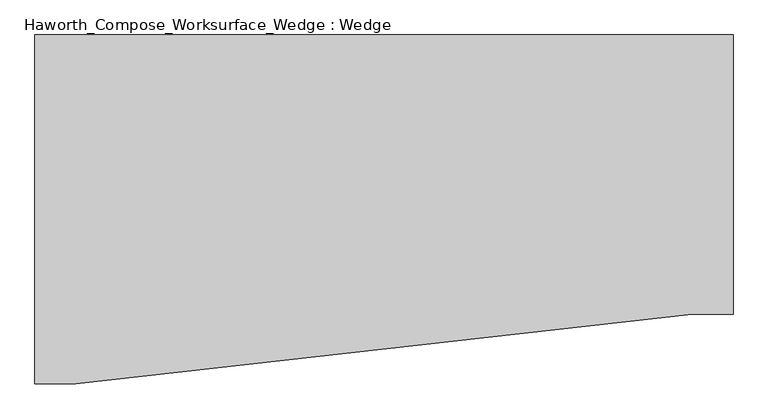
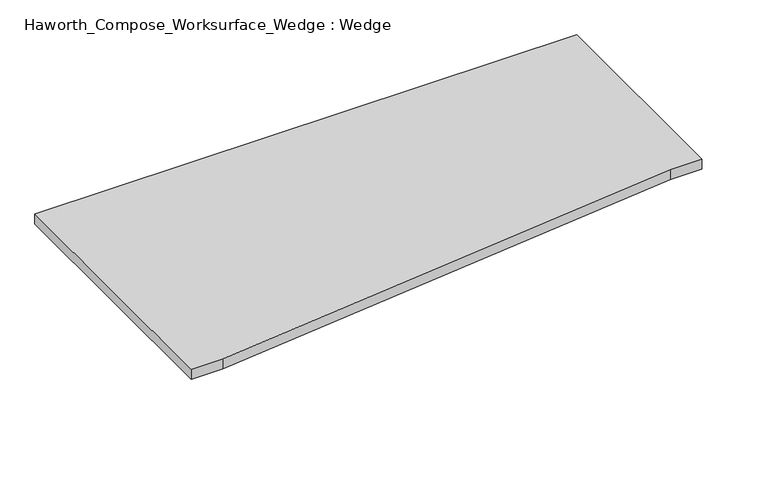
"""IFC4 building model written with IfcOpenShell, lengths in millimetres: furniture geometry, Haworth_Compose_Worksurface_Wedge : Wedge."""

from ifc_helpers import new_model, si_unit, frame, origin, place, context, project, spatial, polyline, circle_curve, outline, extrude, source, transform, mapped, element, save
from ifc_brep_helpers import plane_surface, revolved_surface, advanced_brep


def haworth_compose_worksurface_wedge_wedge_277dbe90(model_context):
    return source(origin(), model_context, "Body", "SolidModel", [
        advanced_brep(
        [(756.44375, 381.0, 475.45625), (756.44375, 365.125, 475.45625), (756.44375, -25.4, 691.7192568), (756.44375, -25.4, 704.05625), (756.44375, 365.125, 704.05625), (756.44375, 381.0, 704.05625), (756.44375, 297.690072, 665.95625), (756.44375, 254.0355284, 665.95625), (756.44375, 251.3564235, 656.3705539), (756.44375, 343.0776173, 605.5776439), (756.44375, 352.425, 611.1756969), (756.44375, 352.425, 634.6860246), (756.44375, 350.6730055, 637.5242776), (756.44375, 300.7663437, 665.1613425), (758.825, 381.0, 475.45625), (758.825, 381.0, 704.05625), (758.825, 365.125, 704.05625), (758.825, 365.125, 706.4375), (758.825, -25.4, 706.4375), (758.825, -25.4, 691.7192568), (758.825, 365.125, 475.45625), (758.825, 297.690072, 665.95625), (758.825, 300.7663437, 665.1613425), (758.825, 350.6730055, 637.5242776), (758.825, 352.425, 634.6860246), (758.825, 352.425, 611.1756969), (758.825, 343.0776173, 605.5776439), (758.825, 251.3564235, 656.3705539), (758.825, 254.0355284, 665.95625), (717.55, -25.4, 706.4375), (717.55, -25.4, 704.05625), (717.55, 365.125, 704.05625), (717.55, 365.125, 706.4375)],
        [
            (0, 1),
            (1, 2),
            (2, 3),
            (3, 4),
            (4, 5),
            (5, 0),
            (6, 7),
            (7, 8, circle_curve(frame((756.44375, 254.0355284, 660.7890106), z_axis=(1.0, 0.0, 0.0), x_axis=(0.0, -1.0, 0.0)), 5.1672394)),
            (8, 9),
            (9, 10, circle_curve(frame((756.44375, 346.075, 611.1756969), z_axis=(1.0, 0.0, 0.0), x_axis=(0.0, -1.0, 0.0)), 6.35)),
            (10, 11),
            (11, 12, circle_curve(frame((756.44375, 349.25, 634.6860246), z_axis=(1.0, 0.0, 0.0), x_axis=(0.0, -1.0, 0.0)), 3.175)),
            (12, 13),
            (13, 6, circle_curve(frame((756.44375, 297.690072, 659.60625), z_axis=(1.0, 0.0, 0.0), x_axis=(0.0, -1.0, 0.0)), 6.35)),
            (14, 15),
            (15, 16),
            (16, 17),
            (17, 18),
            (18, 19),
            (19, 20),
            (20, 14),
            (21, 22, circle_curve(frame((758.825, 297.690072, 659.60625), z_axis=(-1.0, 0.0, 0.0), x_axis=(0.0, -1.0, 0.0)), 6.35)),
            (22, 23),
            (23, 24, circle_curve(frame((758.825, 349.25, 634.6860246), z_axis=(-1.0, 0.0, 0.0), x_axis=(0.0, -1.0, 0.0)), 3.175)),
            (24, 25),
            (25, 26, circle_curve(frame((758.825, 346.075, 611.1756969), z_axis=(-1.0, 0.0, 0.0), x_axis=(0.0, -1.0, 0.0)), 6.35)),
            (26, 27),
            (27, 28, circle_curve(frame((758.825, 254.0355284, 660.7890106), z_axis=(-1.0, 0.0, 0.0), x_axis=(0.0, -1.0, 0.0)), 5.1672394)),
            (28, 21),
            (4, 16),
            (15, 5),
            (14, 0),
            (20, 1),
            (19, 2),
            (18, 29),
            (29, 30),
            (30, 3),
            (6, 21),
            (28, 7),
            (9, 26),
            (25, 10),
            (24, 11),
            (23, 12),
            (27, 8),
            (31, 4),
            (30, 31),
            (32, 29),
            (17, 32),
            (31, 32),
            (22, 13),
        ],
        [
            plane_surface(frame((756.44375, 381.0, 475.45625), z_axis=(-1.0, 0.0, 0.0), x_axis=(0.0, 1.0, 0.0))),
            plane_surface(frame((758.825, 381.0, 475.45625), z_axis=(1.0, 0.0, 0.0), x_axis=(0.0, -1.0, 0.0))),
            plane_surface(frame((758.825, -25.4, 704.05625), z_axis=(0.0, 0.0, 1.0), x_axis=(-1.0, 0.0, 0.0))),
            plane_surface(frame((758.825, 381.0, 704.05625), z_axis=(0.0, 1.0, 0.0), x_axis=(-1.0, 0.0, 0.0))),
            plane_surface(frame((758.825, 381.0, 475.45625), z_axis=(0.0, 0.0, -1.0), x_axis=(-1.0, 0.0, 0.0))),
            plane_surface(frame((758.825, 365.125, 475.45625), z_axis=(0.0, -0.48445223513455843, -0.8748177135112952), x_axis=(-1.0, 0.0, 0.0))),
            plane_surface(frame((758.825, -25.4, 691.7192568), z_axis=(0.0, -1.0, 0.0), x_axis=(-1.0, 0.0, 0.0))),
            plane_surface(frame((758.825, 297.690072, 665.95625), z_axis=(0.0, 0.0, -1.0), x_axis=(-1.0, 0.0, 0.0))),
            revolved_surface(polyline([(756.44375, 339.72499999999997, 611.1756969), (758.825, 339.72499999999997, 611.1756969)]), (758.825, 346.075, 611.1756969), (-1.0, 0.0, 0.0)),
            plane_surface(frame((758.825, 352.425, 611.1756969), z_axis=(0.0, -1.0, 0.0), x_axis=(-1.0, 0.0, 0.0))),
            revolved_surface(polyline([(756.44375, 346.075, 634.6860246), (758.825, 346.075, 634.6860246)]), (758.825, 349.25, 634.6860246), (-1.0, 0.0, 0.0)),
            revolved_surface(polyline([(756.44375, 248.868289, 660.7890106), (758.825, 248.868289, 660.7890106)]), (758.825, 254.0355284, 660.7890106), (-1.0, 0.0, 0.0)),
            plane_surface(frame((758.825, 365.125, 704.05625), z_axis=(0.0, 0.0, -1.0), x_axis=(-1.0, 0.0, 0.0))),
            plane_surface(frame((758.825, 365.125, 706.4375), z_axis=(0.0, 0.0, 1.0), x_axis=(1.0, 0.0, 0.0))),
            plane_surface(frame((717.55, 365.125, 706.4375), z_axis=(0.0, 1.0, 0.0), x_axis=(0.0, 0.0, -1.0))),
            plane_surface(frame((717.55, -25.4, 706.4375), z_axis=(-1.0, 0.0, 0.0), x_axis=(0.0, 0.0, -1.0))),
            plane_surface(frame((758.825, 251.3564235, 656.3705539), z_axis=(0.0, 0.4844522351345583, 0.8748177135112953), x_axis=(-1.0, 0.0, 0.0))),
            plane_surface(frame((758.825, 350.6730055, 637.5242776), z_axis=(0.0, -0.4844522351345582, -0.8748177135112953), x_axis=(-1.0, 0.0, 0.0))),
            revolved_surface(polyline([(756.44375, 291.34007199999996, 659.60625), (758.825, 291.34007199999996, 659.60625)]), (758.825, 297.690072, 659.60625), (-1.0, 0.0, 0.0)),
        ],
        [
            (0, [[1, 2, 3, 4, 5, 6], [7, 8, 9, 10, 11, 12, 13, 14]]),
            (1, [[15, 16, 17, 18, 19, 20, 21], [22, 23, 24, 25, 26, 27, 28, 29]]),
            (2, [[-5, 30, -16, 31]]),
            (3, [[-31, -15, 32, -6]]),
            (4, [[-32, -21, 33, -1]]),
            (5, [[-33, -20, 34, -2]]),
            (6, [[-34, -19, 35, 36, 37, -3]]),
            (7, [[38, -29, 39, -7]]),
            (8, [[40, -26, 41, -10]]),
            (9, [[-41, -25, 42, -11]]),
            (10, [[-42, -24, 43, -12]]),
            (11, [[-39, -28, 44, -8]]),
            (12, [[45, -4, -37, 46]]),
            (13, [[47, -35, -18, 48]]),
            (14, [[-17, -30, -45, 49, -48]]),
            (15, [[-36, -47, -49, -46]]),
            (16, [[-44, -27, -40, -9]]),
            (17, [[-43, -23, 50, -13]]),
            (18, [[-50, -22, -38, -14]]),
        ],
    ),
        extrude(outline(polyline([(762.0, 381.0), (762.0, -228.6), (673.1, -228.6), (-673.1, -381.0), (-762.0, -381.0), (-762.0, 381.0), (762.0, 381.0)])), frame((0.0, 0.0, 706.4375), z_axis=(0.0, 0.0, 1.0), x_axis=(1.0, 0.0, 0.0)), (0.0, 0.0, 1.0), 30.1625),
    ])


if __name__ == "__main__":
    model = new_model("IFC4")
    model_context = context("Model", 3, world=origin())
    ifc_project = project(units=[si_unit("LENGTHUNIT", "METRE", prefix="MILLI")], contexts=[model_context])
    site = spatial("IfcSite", under=ifc_project)
    building = spatial("IfcBuilding", under=site)
    placement = place(None, origin())
    haworth_compose_worksurface_wedge_wedge_shape = haworth_compose_worksurface_wedge_wedge_277dbe90(model_context)
    element("IfcFurniture", 1, ObjectType="Haworth_Compose_Worksurface_Wedge : Wedge", at=placement, inside=building, context=model_context, shape_type="MappedRepresentation", body=[
        mapped(haworth_compose_worksurface_wedge_wedge_shape, transform((0.0, 0.0, 0.0), x_axis=(1.0, 0.0, 0.0), y_axis=(0.0, 1.0, 0.0), z_axis=(0.0, 0.0, 1.0))),
    ])
    save(model, "model.ifc")
